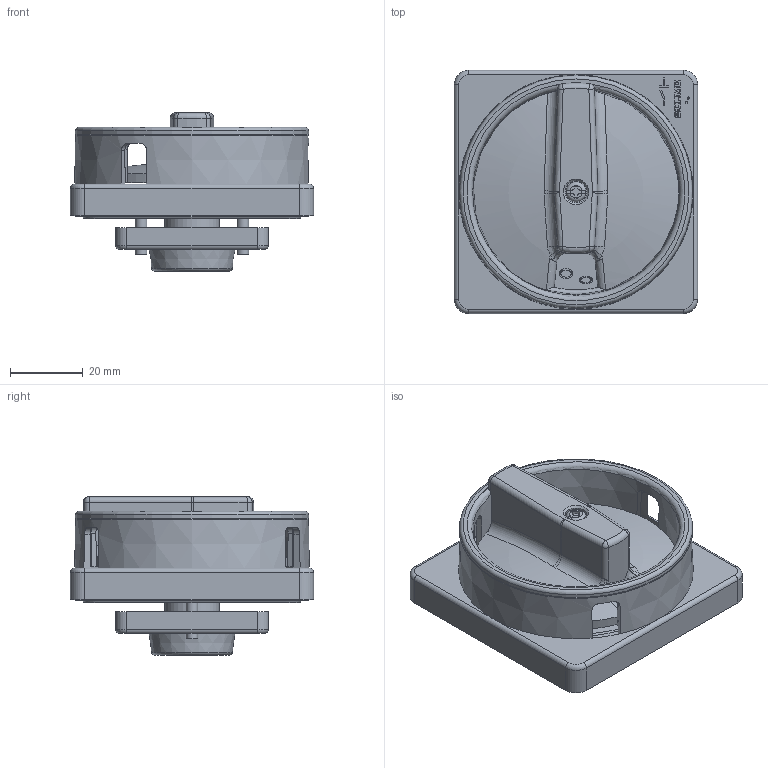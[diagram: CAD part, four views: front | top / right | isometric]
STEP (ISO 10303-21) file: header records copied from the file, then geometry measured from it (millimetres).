
FILE_DESCRIPTION(/* description */ (''),/* implementation_level */ '2;1');
FILE_NAME(/* name */ '4005380.stp',/* time_stamp */ '2016-09-26T11:37:11+02:00',/* author */ (''),/* organization */ (''),/* preprocessor_version */ 'ST-DEVELOPER v16',/* originating_system */ 'SIEMENS PLM Software NX 11.0',/* authorisation */ '');
FILE_SCHEMA (('AUTOMOTIVE_DESIGN { 1 0 10303 214 3 1 1 1 }'));
Length unit declared in the file: millimetre
Products named in the file (1): 4005380_LINKEDEXT_jt
Bounding box: 67 x 67 x 43.6 mm (x, y, z)
Surface area: 42257.5 mm2 (no closed solid volume)
Topology: 0 solids, 33 shells, 223 faces, 1151 edges, 937 vertices
Faces by surface type: plane 100, cylinder 56, torus 26, cone 26, bspline 10, sphere 5
Full cylindrical faces by diameter (mm): 3.2 x2, 4 x4, 6 x1, 15 x1, 64.2 x1
Entity records: 13640 total; most frequent: CARTESIAN_POINT 3417, DIRECTION 1883, ORIENTED_EDGE 1476, EDGE_CURVE 1110, VERTEX_POINT 926, AXIS2_PLACEMENT_3D 674, LINE 535, VECTOR 535
